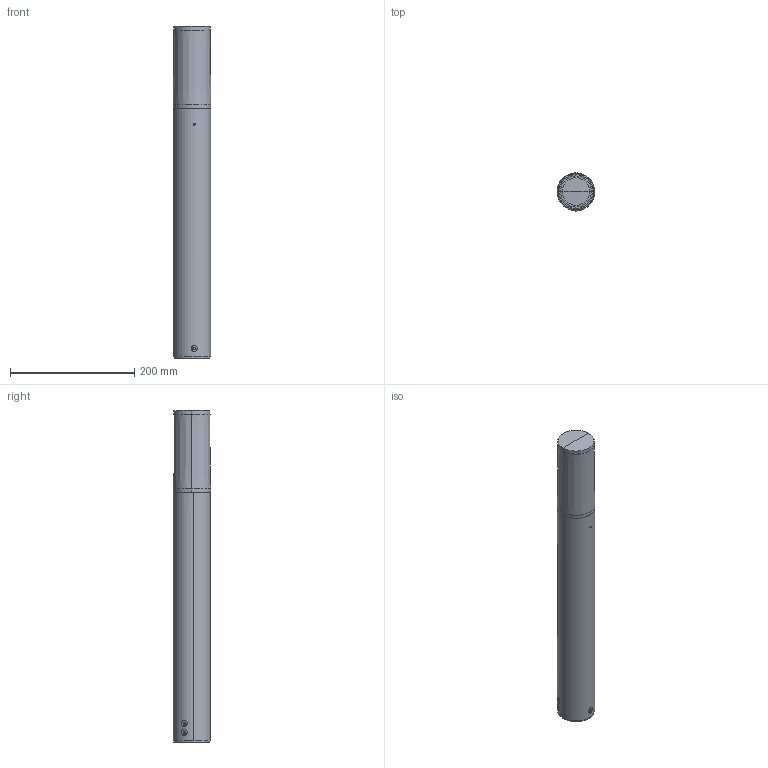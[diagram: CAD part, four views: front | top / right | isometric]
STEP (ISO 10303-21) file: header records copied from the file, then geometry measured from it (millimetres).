
FILE_DESCRIPTION((''),'2;1');
FILE_NAME('STIK-H400_SW0002','2025-05-26T16:00:40',('elena.baldelli'),(''),'CREO PARAMETRIC BY PTC INC, 2020354','CREO PARAMETRIC BY PTC INC, 2020354','');
FILE_SCHEMA(('CONFIG_CONTROL_DESIGN'));
Length unit declared in the file: millimetre
Products named in the file (1): STIK-H400_SW0002
Bounding box: 60.5 x 60.95 x 535 mm (x, y, z)
Surface area: 212188.5 mm2 (no closed solid volume)
Topology: 0 solids, 20 shells, 49 faces, 260 edges, 226 vertices
Faces by surface type: cylinder 17, plane 13, cone 12, torus 5, sphere 2
Entity records: 3252 total; most frequent: CARTESIAN_POINT 1159, DIRECTION 452, ORIENTED_EDGE 316, EDGE_CURVE 258, VERTEX_POINT 226, AXIS2_PLACEMENT_3D 193, CIRCLE 144, EDGE_LOOP 85
